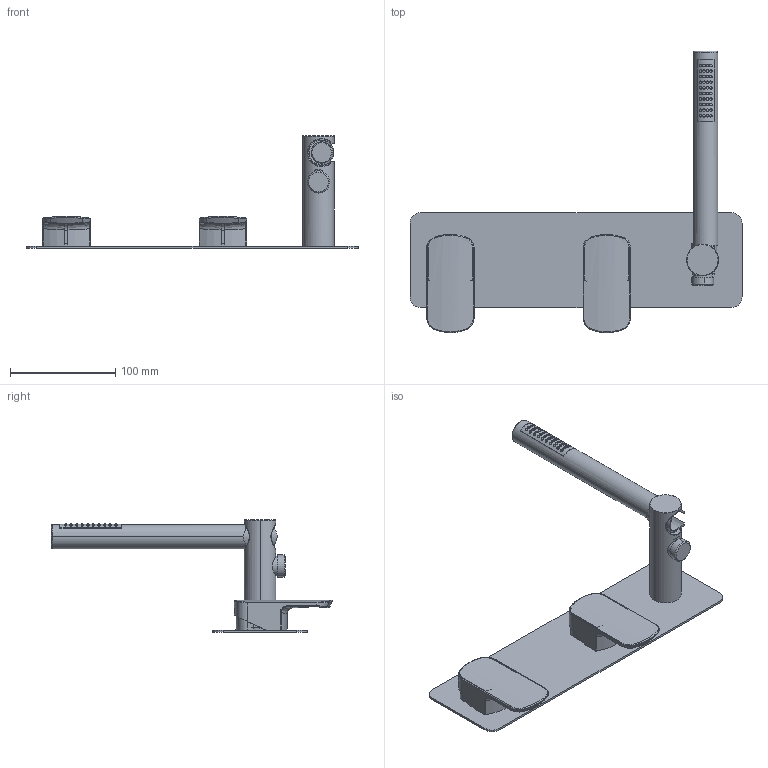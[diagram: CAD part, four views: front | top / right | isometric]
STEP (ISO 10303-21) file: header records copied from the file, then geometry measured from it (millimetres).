
FILE_DESCRIPTION (( 'STEP AP214' ), '1' );
FILE_NAME ('56229710 x architetti.STEP', '2024-10-24T12:58:45', ( '' ), ( '' ), 'SwSTEP 2.0', 'SolidWorks 2020', '' );
FILE_SCHEMA (( 'AUTOMOTIVE_DESIGN' ));
Length unit declared in the file: millimetre
Products named in the file (1): 56229710 x architetti
Bounding box: 315 x 266.93 x 106.7 mm (x, y, z)
Volume: 309303 mm3; surface area: 124072.2 mm2
Topology: 3 solids, 10 shells, 1584 faces, 4263 edges, 2677 vertices
Faces by surface type: plane 698, cylinder 581, bspline 230, cone 52, torus 23
Entity records: 81450 total; most frequent: CARTESIAN_POINT 29797, ORIENTED_EDGE 8374, DIRECTION 5387, EDGE_CURVE 4187, VERTEX_POINT 2677, B_SPLINE_CURVE_WITH_KNOTS 1909, AXIS2_PLACEMENT_3D 1885, EDGE_LOOP 1680
